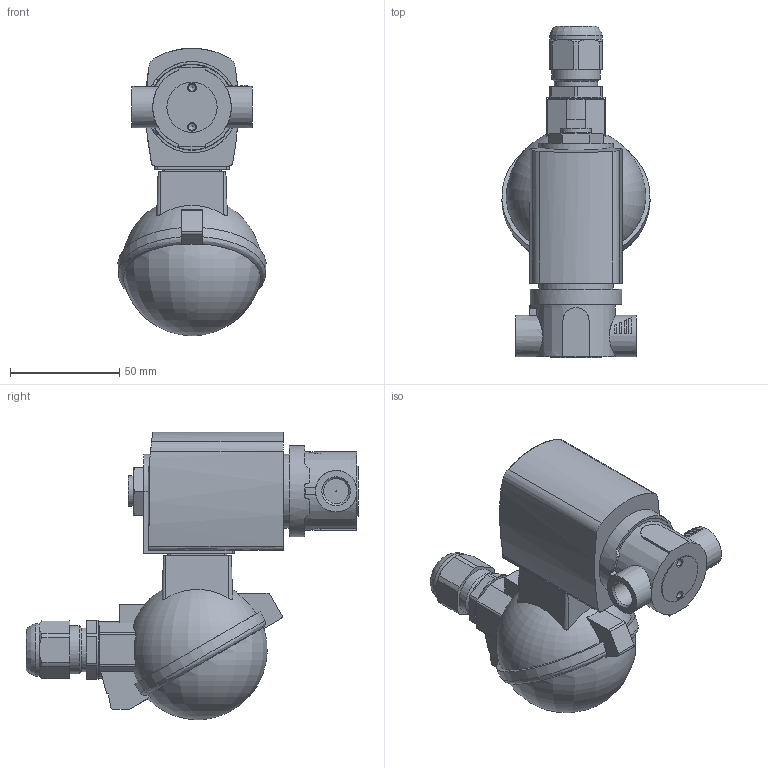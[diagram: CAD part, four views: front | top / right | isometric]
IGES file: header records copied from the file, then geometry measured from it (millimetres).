
Start section: Data from Parasolid IGES Translator 26.0.171, Copyright(c) 2006 Siemens PLM Software. All Rights Reserved.
Global section: file name: 6027-A-4-EPDM___EPDM-MS-G_1_4-42-024___UC.igs; native system: By Siemens PLM Incorporated; preprocessor: XPlus GENERIC/IGES 26.0.171; author: Noname; organization: Noname; date: 20240327.051259; units: millimetre
Bounding box: 67.86 x 152.1 x 131.7 mm (x, y, z)
Surface area: 49092.1 mm2 (no closed solid volume)
Topology: 0 solids, 0 shells, 221 faces, 1143 edges, 1109 vertices
Faces by surface type: extrusion 121, revolution 100
